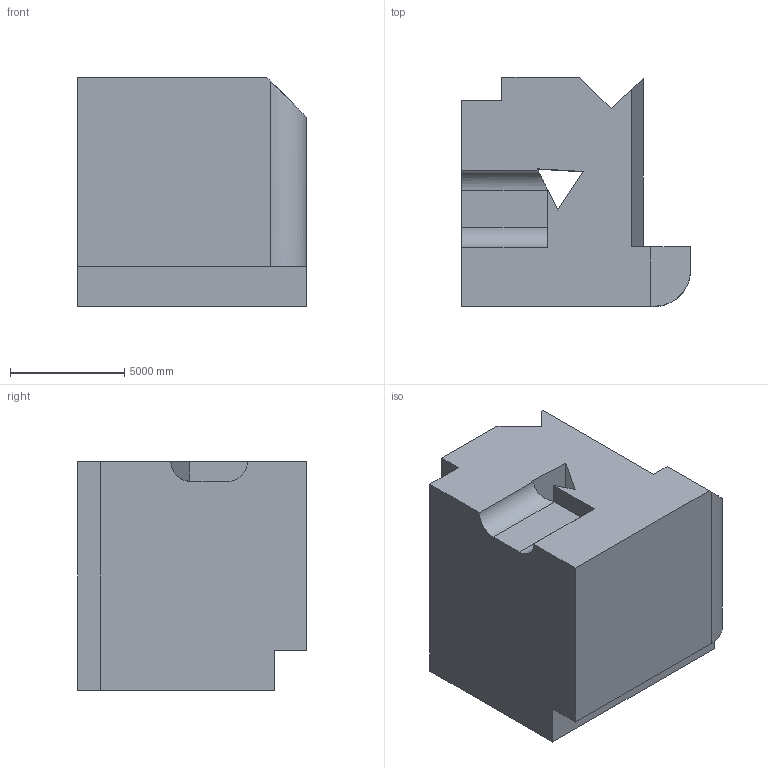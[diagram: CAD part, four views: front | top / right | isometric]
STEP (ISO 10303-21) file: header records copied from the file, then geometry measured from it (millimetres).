
FILE_DESCRIPTION (( 'STEP AP203' ), '1' );
FILE_NAME ('782.STEP', '2022-07-29T13:10:27', ( 'user' ), ( '' ), 'SwSTEP 2.0', 'SolidWorks 2021', '' );
FILE_SCHEMA (( 'CONFIG_CONTROL_DESIGN' ));
Length unit declared in the file: centimetre
Products named in the file (1): 782
Bounding box: 10000 x 10000 x 10000 mm (x, y, z)
Volume: 732657632975.8 mm3; surface area: 608889125.9 mm2
Topology: 1 solids, 1 shells, 23 faces, 66 edges, 44 vertices
Faces by surface type: plane 20, cylinder 3
Entity records: 827 total; most frequent: CARTESIAN_POINT 140, ORIENTED_EDGE 132, DIRECTION 118, EDGE_CURVE 66, VECTOR 58, LINE 58, VERTEX_POINT 44, AXIS2_PLACEMENT_3D 30
